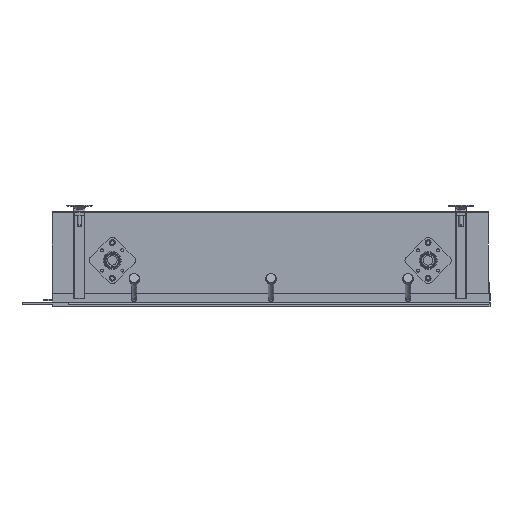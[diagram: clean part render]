
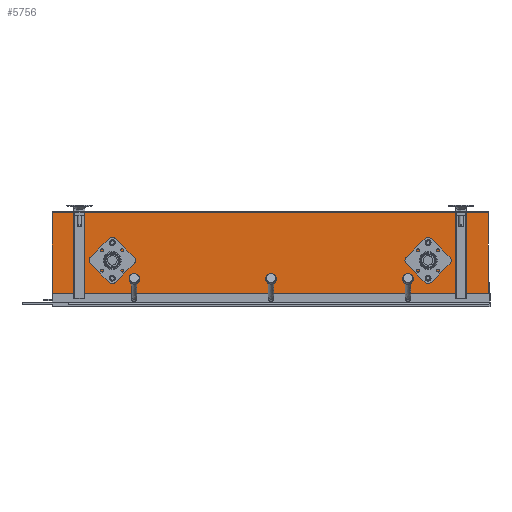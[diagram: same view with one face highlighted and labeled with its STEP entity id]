
A CAD part, left-side view. The second image highlights one B-rep face of the part: STEP entity #5756.
In plain terms, the highlighted planar face has unit normal (-1, 0, 0) as drawn and (0, 0, -1) by its records, which use the part's own axes.
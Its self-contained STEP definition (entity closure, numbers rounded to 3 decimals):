
#312=FACE_BOUND('',#1130,.T.);
#313=FACE_BOUND('',#1131,.T.);
#314=FACE_BOUND('',#1132,.T.);
#315=FACE_BOUND('',#1133,.T.);
#316=FACE_BOUND('',#1134,.T.);
#317=FACE_BOUND('',#1135,.T.);
#470=PLANE('',#6349);
#738=FACE_OUTER_BOUND('',#1129,.T.);
#1129=EDGE_LOOP('',(#4434,#4435,#4436,#4437));
#1130=EDGE_LOOP('',(#4438));
#1131=EDGE_LOOP('',(#4439));
#1132=EDGE_LOOP('',(#4440));
#1133=EDGE_LOOP('',(#4441));
#1134=EDGE_LOOP('',(#4442));
#1135=EDGE_LOOP('',(#4443));
#1597=LINE('',#9205,#2024);
#1612=LINE('',#9241,#2039);
#1615=LINE('',#9247,#2042);
#1616=LINE('',#9248,#2043);
#2024=VECTOR('',#7431,10.);
#2039=VECTOR('',#7470,10.);
#2042=VECTOR('',#7475,10.);
#2043=VECTOR('',#7476,10.);
#2450=CIRCLE('',#6318,1.5);
#2452=CIRCLE('',#6321,1.5);
#2454=CIRCLE('',#6324,1.5);
#2456=CIRCLE('',#6327,1.5);
#2458=CIRCLE('',#6330,11.);
#2460=CIRCLE('',#6333,11.);
#2769=VERTEX_POINT('',#9169);
#2771=VERTEX_POINT('',#9174);
#2773=VERTEX_POINT('',#9179);
#2775=VERTEX_POINT('',#9184);
#2777=VERTEX_POINT('',#9189);
#2779=VERTEX_POINT('',#9194);
#2783=VERTEX_POINT('',#9202);
#2784=VERTEX_POINT('',#9204);
#2793=VERTEX_POINT('',#9240);
#2795=VERTEX_POINT('',#9246);
#3378=EDGE_CURVE('',#2769,#2769,#2450,.T.);
#3380=EDGE_CURVE('',#2771,#2771,#2452,.T.);
#3382=EDGE_CURVE('',#2773,#2773,#2454,.T.);
#3384=EDGE_CURVE('',#2775,#2775,#2456,.T.);
#3386=EDGE_CURVE('',#2777,#2777,#2458,.T.);
#3388=EDGE_CURVE('',#2779,#2779,#2460,.T.);
#3392=EDGE_CURVE('',#2784,#2783,#1597,.T.);
#3410=EDGE_CURVE('',#2793,#2784,#1612,.T.);
#3413=EDGE_CURVE('',#2783,#2795,#1615,.T.);
#3414=EDGE_CURVE('',#2795,#2793,#1616,.T.);
#4434=ORIENTED_EDGE('',*,*,#3392,.T.);
#4435=ORIENTED_EDGE('',*,*,#3413,.T.);
#4436=ORIENTED_EDGE('',*,*,#3414,.T.);
#4437=ORIENTED_EDGE('',*,*,#3410,.T.);
#4438=ORIENTED_EDGE('',*,*,#3378,.T.);
#4439=ORIENTED_EDGE('',*,*,#3380,.T.);
#4440=ORIENTED_EDGE('',*,*,#3382,.T.);
#4441=ORIENTED_EDGE('',*,*,#3384,.T.);
#4442=ORIENTED_EDGE('',*,*,#3386,.T.);
#4443=ORIENTED_EDGE('',*,*,#3388,.T.);
#5756=ADVANCED_FACE('',(#738,#312,#313,#314,#315,#316,#317),#470,.F.);
#6318=AXIS2_PLACEMENT_3D('',#9170,#7392,#7393);
#6321=AXIS2_PLACEMENT_3D('',#9175,#7398,#7399);
#6324=AXIS2_PLACEMENT_3D('',#9180,#7404,#7405);
#6327=AXIS2_PLACEMENT_3D('',#9185,#7410,#7411);
#6330=AXIS2_PLACEMENT_3D('',#9190,#7416,#7417);
#6333=AXIS2_PLACEMENT_3D('',#9195,#7422,#7423);
#6349=AXIS2_PLACEMENT_3D('',#9245,#7473,#7474);
#7392=DIRECTION('center_axis',(0.,0.,1.));
#7393=DIRECTION('ref_axis',(-1.,0.,0.));
#7398=DIRECTION('center_axis',(0.,0.,1.));
#7399=DIRECTION('ref_axis',(-1.,0.,0.));
#7404=DIRECTION('center_axis',(0.,0.,1.));
#7405=DIRECTION('ref_axis',(-1.,0.,0.));
#7410=DIRECTION('center_axis',(0.,0.,1.));
#7411=DIRECTION('ref_axis',(-1.,0.,0.));
#7416=DIRECTION('center_axis',(0.,0.,1.));
#7417=DIRECTION('ref_axis',(-1.,0.,0.));
#7422=DIRECTION('center_axis',(0.,0.,1.));
#7423=DIRECTION('ref_axis',(-1.,0.,0.));
#7431=DIRECTION('',(1.,0.,0.));
#7470=DIRECTION('',(0.,1.,0.));
#7473=DIRECTION('center_axis',(0.,0.,1.));
#7474=DIRECTION('ref_axis',(1.,0.,0.));
#7475=DIRECTION('',(0.,-1.,0.));
#7476=DIRECTION('',(-1.,0.,0.));
#9169=CARTESIAN_POINT('',(111.5,-57.5,0.));
#9170=CARTESIAN_POINT('Origin',(110.,-57.5,0.));
#9174=CARTESIAN_POINT('',(688.5,-122.5,0.));
#9175=CARTESIAN_POINT('Origin',(687.,-122.5,0.));
#9179=CARTESIAN_POINT('',(688.5,-57.5,0.));
#9180=CARTESIAN_POINT('Origin',(687.,-57.5,0.));
#9184=CARTESIAN_POINT('',(111.5,-122.5,0.));
#9185=CARTESIAN_POINT('Origin',(110.,-122.5,0.));
#9189=CARTESIAN_POINT('',(698.,-90.,0.));
#9190=CARTESIAN_POINT('Origin',(687.,-90.,0.));
#9194=CARTESIAN_POINT('',(121.,-90.,0.));
#9195=CARTESIAN_POINT('Origin',(110.,-90.,0.));
#9202=CARTESIAN_POINT('',(797.,-3.,0.));
#9204=CARTESIAN_POINT('',(0.,-3.,0.));
#9205=CARTESIAN_POINT('',(199.25,-3.,0.));
#9240=CARTESIAN_POINT('',(0.,-150.,0.));
#9241=CARTESIAN_POINT('',(0.,-150.,0.));
#9245=CARTESIAN_POINT('Origin',(398.5,-75.,0.));
#9246=CARTESIAN_POINT('',(797.,-150.,0.));
#9247=CARTESIAN_POINT('',(797.,0.,0.));
#9248=CARTESIAN_POINT('',(797.,-150.,0.));
